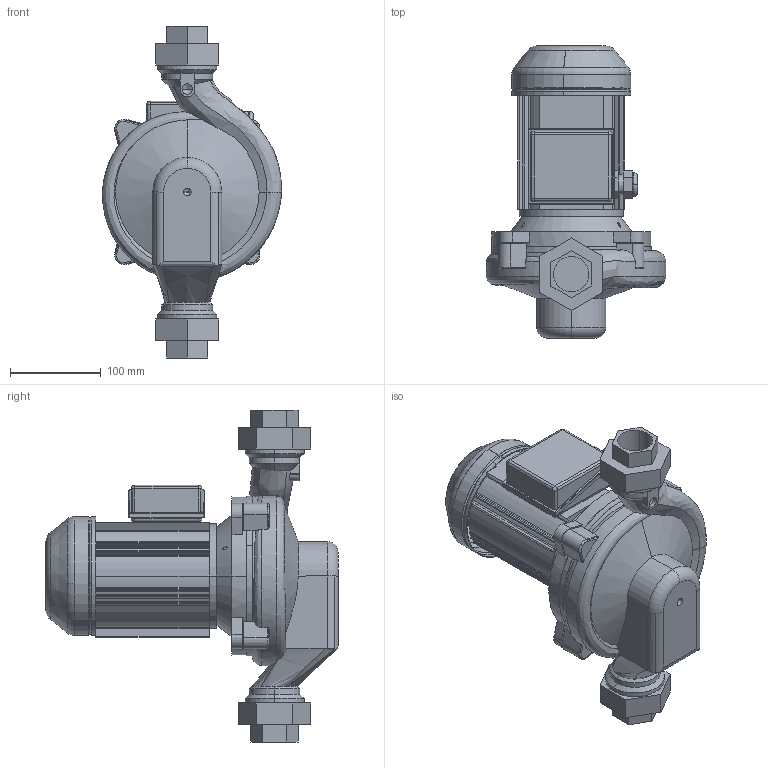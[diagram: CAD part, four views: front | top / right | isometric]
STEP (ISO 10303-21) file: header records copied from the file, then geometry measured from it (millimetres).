
FILE_DESCRIPTION(('STEP AP214'),'1');
FILE_NAME('export.stp','2018-05-28T13:54:38',(' '),(' '),'Spatial InterOp 3D',' ',' ');
FILE_SCHEMA(('AUTOMOTIVE_DESIGN { 1 0 10303 214 1 1 1 1 }'));
Length unit declared in the file: millimetre
Products named in the file (8): W_AE334370_OP772; V_TLAEAP3233L40A; V_PPAE33; V_MOP-772_N13; R201415; EK_OP7_N13; TSUOJA_OP_752; KYTKOTELO_OP7_OKN8
Assembly tree (7 placements, depth 3):
  W_AE334370_OP772
    V_TLAEAP3233L40A
    V_PPAE33
    V_MOP-772_N13
      R201415
      EK_OP7_N13
      TSUOJA_OP_752
      KYTKOTELO_OP7_OKN8
Bounding box: 197.64 x 322.01 x 366 mm (x, y, z)
Volume: 2888142.2 mm3; surface area: 524579.6 mm2
Topology: 6 solids, 7 shells, 674 faces, 1775 edges, 1134 vertices
Faces by surface type: cylinder 340, plane 179, cone 57, bspline 48, torus 38, sphere 12
Entity records: 34422 total; most frequent: CARTESIAN_POINT 8676, DIRECTION 3600, ORIENTED_EDGE 3482, EDGE_CURVE 1741, AXIS2_PLACEMENT_3D 1446, STYLED_ITEM 1369, PRESENTATION_STYLE_ASSIGNMENT 1369, COLOUR_RGB 1369
